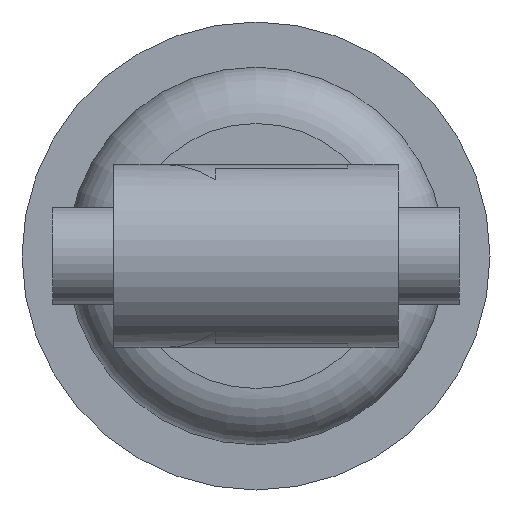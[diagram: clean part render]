
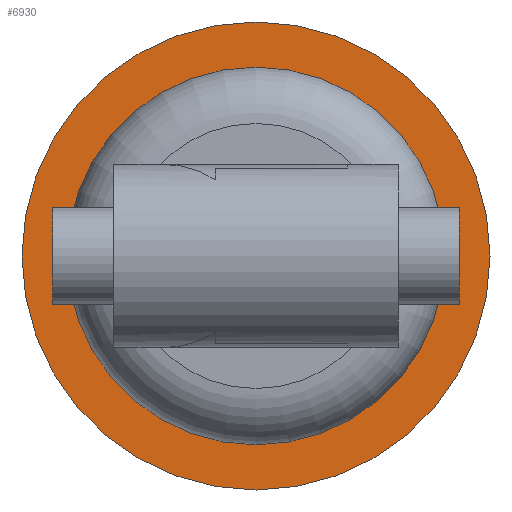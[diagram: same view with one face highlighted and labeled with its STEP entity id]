
A CAD part, front view. The second image highlights one B-rep face of the part: STEP entity #6930.
In plain terms, the highlighted planar face has unit normal (0, -1, 0).
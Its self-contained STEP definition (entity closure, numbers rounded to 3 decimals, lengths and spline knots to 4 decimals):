
#1223 = DIRECTION ( 'NONE',  ( 0., -1., 0. ) ) ;
#2013 = CARTESIAN_POINT ( 'NONE',  ( 0., 25.8101, -4.6412 ) ) ;
#2911 = DIRECTION ( 'NONE',  ( 0., -1., 0. ) ) ;
#6015 = PLANE ( 'NONE',  #33398 ) ;
#6930 = ADVANCED_FACE ( 'NONE', ( #38103, #34223 ), #6015, .F. ) ;
#7031 = DIRECTION ( 'NONE',  ( 0., 0., -1. ) ) ;
#9744 = VERTEX_POINT ( 'NONE', #33100 ) ;
#10111 = CARTESIAN_POINT ( 'NONE',  ( -5.75, 25.8101, 0. ) ) ;
#11696 = ORIENTED_EDGE ( 'NONE', *, *, #13025, .F. ) ;
#13025 = EDGE_CURVE ( 'NONE', #48579, #48579, #38361, .T. ) ;
#17878 = EDGE_CURVE ( 'NONE', #9744, #9744, #46637, .T. ) ;
#19380 = EDGE_LOOP ( 'NONE', ( #38995 ) ) ;
#21122 = AXIS2_PLACEMENT_3D ( 'NONE', #38143, #2911, #7031 ) ;
#21184 = AXIS2_PLACEMENT_3D ( 'NONE', #44939, #1223, #44435 ) ;
#23698 = EDGE_LOOP ( 'NONE', ( #11696 ) ) ;
#29635 = DIRECTION ( 'NONE',  ( 0., 1., 0. ) ) ;
#33100 = CARTESIAN_POINT ( 'NONE',  ( 0., 25.8101, -5.75 ) ) ;
#33398 = AXIS2_PLACEMENT_3D ( 'NONE', #10111, #29635, #45337 ) ;
#34223 = FACE_OUTER_BOUND ( 'NONE', #19380, .T. ) ;
#38103 = FACE_BOUND ( 'NONE', #23698, .T. ) ;
#38143 = CARTESIAN_POINT ( 'NONE',  ( 0., 25.8101, 0. ) ) ;
#38361 = CIRCLE ( 'NONE', #21122, 4.6412 ) ;
#38995 = ORIENTED_EDGE ( 'NONE', *, *, #17878, .T. ) ;
#44435 = DIRECTION ( 'NONE',  ( 0., 0., -1. ) ) ;
#44939 = CARTESIAN_POINT ( 'NONE',  ( 0., 25.8101, 0. ) ) ;
#45337 = DIRECTION ( 'NONE',  ( 0., 0., 1. ) ) ;
#46637 = CIRCLE ( 'NONE', #21184, 5.75 ) ;
#48579 = VERTEX_POINT ( 'NONE', #2013 ) ;
